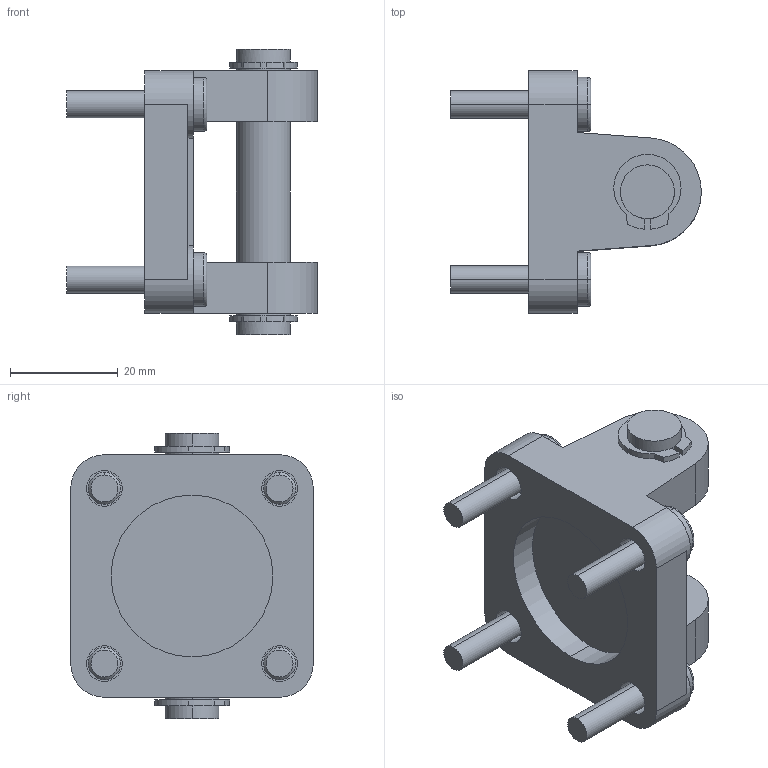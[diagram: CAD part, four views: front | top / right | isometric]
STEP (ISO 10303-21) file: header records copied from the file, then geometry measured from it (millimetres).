
FILE_DESCRIPTION (( 'STEP AP203' ), '1' );
FILE_NAME ('Gabelbefestigung_GB-MP2-3260_536378.step', '2021-07-09T14:17:06', ( '' ), ( '' ), 'SwSTEP 2.0', 'SolidWorks 2020', '' );
FILE_SCHEMA (( 'CONFIG_CONTROL_DESIGN' ));
Length unit declared in the file: millimetre
Products named in the file (1): Gabelbefestigung_GB-MP2-3260_536378
Bounding box: 46.5 x 45 x 53 mm (x, y, z)
Volume: 26301.8 mm3; surface area: 12988 mm2
Topology: 5 solids, 5 shells, 166 faces, 399 edges, 254 vertices
Faces by surface type: plane 79, cylinder 71, cone 8, torus 8
Entity records: 4938 total; most frequent: DIRECTION 907, CARTESIAN_POINT 820, ORIENTED_EDGE 798, EDGE_CURVE 399, AXIS2_PLACEMENT_3D 341, VERTEX_POINT 254, LINE 225, VECTOR 225
